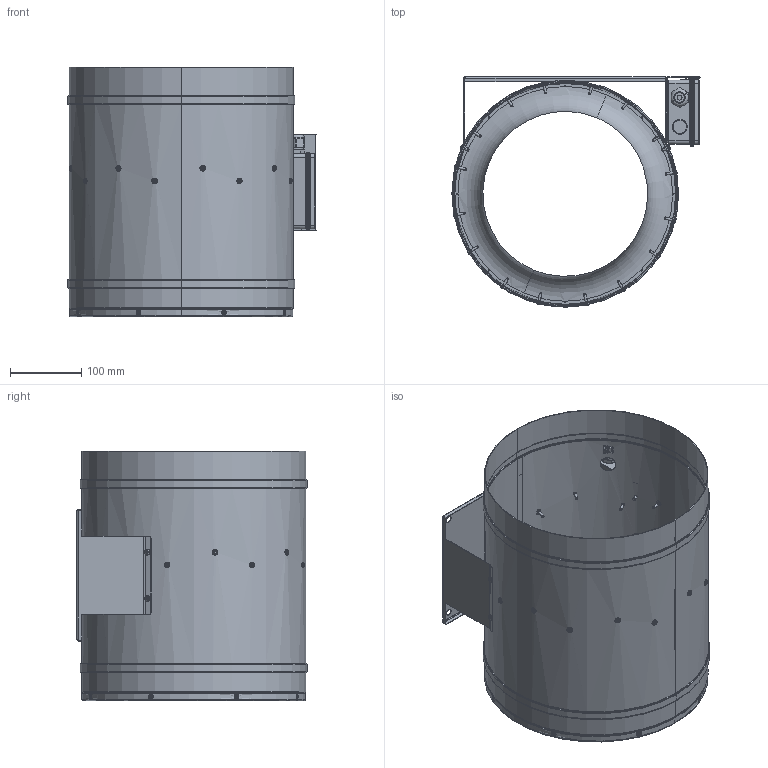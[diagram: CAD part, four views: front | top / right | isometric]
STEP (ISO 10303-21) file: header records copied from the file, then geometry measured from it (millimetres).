
FILE_DESCRIPTION (( 'STEP AP203' ), '1' );
FILE_NAME ('112202-04_EL315E201.STEP', '2013-11-19T10:07:47', ( '' ), ( '' ), 'SwSTEP 2.0', 'SolidWorks 2012', '' );
FILE_SCHEMA (( 'CONFIG_CONTROL_DESIGN' ));
Length unit declared in the file: millimetre
Products named in the file (1): 112202-04_EL315E201
Bounding box: 349.24 x 323.8 x 350.7 mm (x, y, z)
Surface area: 973140.8 mm2 (no closed solid volume)
Topology: 0 solids, 75 shells, 649 faces, 2157 edges, 1537 vertices
Faces by surface type: cylinder 257, plane 195, cone 111, torus 62, bspline 24
Entity records: 29297 total; most frequent: CARTESIAN_POINT 10721, DIRECTION 4072, ORIENTED_EDGE 3264, EDGE_CURVE 2157, AXIS2_PLACEMENT_3D 1695, VERTEX_POINT 1537, CIRCLE 1069, EDGE_LOOP 792
